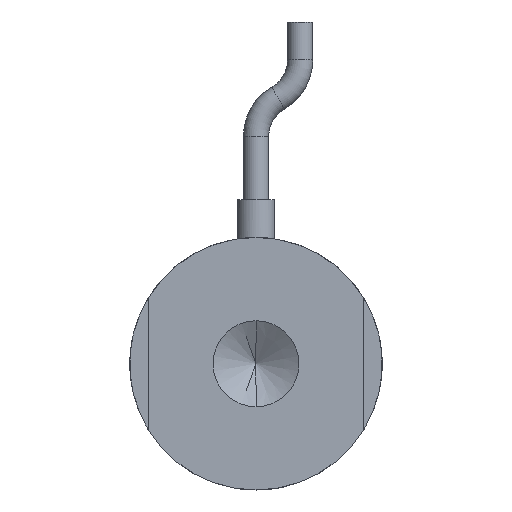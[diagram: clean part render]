
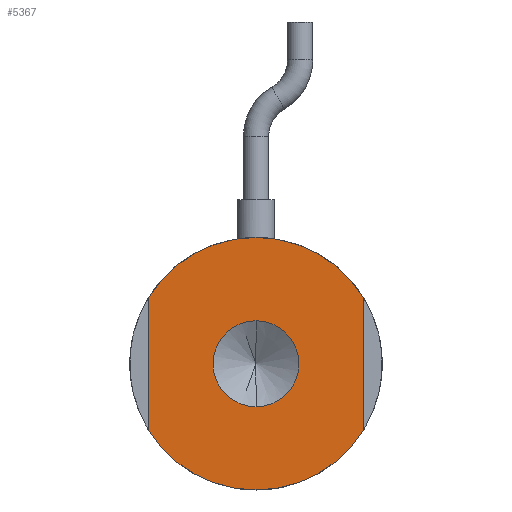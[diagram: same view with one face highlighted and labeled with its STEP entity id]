
A CAD part, front view. The second image highlights one B-rep face of the part: STEP entity #5367.
In plain terms, the highlighted planar face has unit normal (0, -1, 0).
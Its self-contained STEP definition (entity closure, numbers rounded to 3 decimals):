
#10 = AXIS2_PLACEMENT_3D ( 'NONE', #42337, #21681, #704 ) ;
#249 = PLANE ( 'NONE',  #10 ) ;
#704 = DIRECTION ( 'NONE',  ( 0., 0., 1. ) ) ;
#832 = EDGE_LOOP ( 'NONE', ( #18937, #37307 ) ) ;
#1357 = EDGE_CURVE ( 'NONE', #3503, #37301, #32852, .T. ) ;
#1550 = VECTOR ( 'NONE', #27601, 1000. ) ;
#2794 = CARTESIAN_POINT ( 'NONE',  ( 0., 0., 0. ) ) ;
#3503 = VERTEX_POINT ( 'NONE', #32077 ) ;
#3583 = VERTEX_POINT ( 'NONE', #33072 ) ;
#4508 = DIRECTION ( 'NONE',  ( 0., -1., 0. ) ) ;
#5319 = VERTEX_POINT ( 'NONE', #21230 ) ;
#5367 = ADVANCED_FACE ( 'NONE', ( #36600, #21484 ), #249, .F. ) ;
#5627 = CARTESIAN_POINT ( 'NONE',  ( -8.5, 0., -5.268 ) ) ;
#6319 = DIRECTION ( 'NONE',  ( 0., 0., 1. ) ) ;
#6448 = EDGE_CURVE ( 'NONE', #5319, #33537, #25775, .T. ) ;
#6626 = EDGE_LOOP ( 'NONE', ( #10752, #22211, #31426, #15111, #6885, #16231 ) ) ;
#6885 = ORIENTED_EDGE ( 'NONE', *, *, #17805, .F. ) ;
#7560 = DIRECTION ( 'NONE',  ( 0., 0., 1. ) ) ;
#7597 = DIRECTION ( 'NONE',  ( 0., 1., 0. ) ) ;
#7655 = CARTESIAN_POINT ( 'NONE',  ( 0., 0., 0. ) ) ;
#10630 = CARTESIAN_POINT ( 'NONE',  ( 0., 0., 0. ) ) ;
#10752 = ORIENTED_EDGE ( 'NONE', *, *, #15202, .F. ) ;
#13613 = VERTEX_POINT ( 'NONE', #29316 ) ;
#13640 = CARTESIAN_POINT ( 'NONE',  ( -8.5, 0., 0. ) ) ;
#14134 = DIRECTION ( 'NONE',  ( 0., 0., 1. ) ) ;
#14157 = DIRECTION ( 'NONE',  ( 0., -1., 0. ) ) ;
#14253 = EDGE_CURVE ( 'NONE', #33537, #41663, #32140, .T. ) ;
#14427 = DIRECTION ( 'NONE',  ( 0., 0., -1. ) ) ;
#15005 = CIRCLE ( 'NONE', #39968, 3.4 ) ;
#15111 = ORIENTED_EDGE ( 'NONE', *, *, #31008, .F. ) ;
#15202 = EDGE_CURVE ( 'NONE', #41663, #3503, #19086, .T. ) ;
#16008 = EDGE_CURVE ( 'NONE', #13613, #32806, #36912, .T. ) ;
#16231 = ORIENTED_EDGE ( 'NONE', *, *, #1357, .F. ) ;
#17646 = CARTESIAN_POINT ( 'NONE',  ( 8.5, 0., 0. ) ) ;
#17805 = EDGE_CURVE ( 'NONE', #37301, #3583, #29299, .T. ) ;
#18228 = AXIS2_PLACEMENT_3D ( 'NONE', #2794, #27195, #6319 ) ;
#18838 = VECTOR ( 'NONE', #14427, 1000. ) ;
#18937 = ORIENTED_EDGE ( 'NONE', *, *, #16008, .F. ) ;
#19086 = LINE ( 'NONE', #13640, #1550 ) ;
#19853 = CARTESIAN_POINT ( 'NONE',  ( 0., 0., 0. ) ) ;
#21230 = CARTESIAN_POINT ( 'NONE',  ( 8.5, 0., -5.268 ) ) ;
#21484 = FACE_OUTER_BOUND ( 'NONE', #6626, .T. ) ;
#21681 = DIRECTION ( 'NONE',  ( 0., 1., 0. ) ) ;
#22211 = ORIENTED_EDGE ( 'NONE', *, *, #14253, .F. ) ;
#23199 = EDGE_CURVE ( 'NONE', #32806, #13613, #15005, .T. ) ;
#23348 = DIRECTION ( 'NONE',  ( 0., 0., 1. ) ) ;
#25434 = CARTESIAN_POINT ( 'NONE',  ( 0., 0., 0. ) ) ;
#25775 = CIRCLE ( 'NONE', #33166, 10. ) ;
#27195 = DIRECTION ( 'NONE',  ( 0., 1., 0. ) ) ;
#27601 = DIRECTION ( 'NONE',  ( 0., 0., 1. ) ) ;
#28889 = DIRECTION ( 'NONE',  ( 0., 0., -1. ) ) ;
#29299 = CIRCLE ( 'NONE', #18228, 10. ) ;
#29316 = CARTESIAN_POINT ( 'NONE',  ( 0., 0., -3.4 ) ) ;
#31008 = EDGE_CURVE ( 'NONE', #3583, #5319, #37221, .T. ) ;
#31156 = CARTESIAN_POINT ( 'NONE',  ( 0., 0., 3.4 ) ) ;
#31426 = ORIENTED_EDGE ( 'NONE', *, *, #6448, .F. ) ;
#32077 = CARTESIAN_POINT ( 'NONE',  ( -8.5, 0., 5.268 ) ) ;
#32140 = CIRCLE ( 'NONE', #45046, 10. ) ;
#32806 = VERTEX_POINT ( 'NONE', #31156 ) ;
#32852 = CIRCLE ( 'NONE', #34957, 10. ) ;
#33072 = CARTESIAN_POINT ( 'NONE',  ( 8.5, 0., 5.268 ) ) ;
#33166 = AXIS2_PLACEMENT_3D ( 'NONE', #10630, #34888, #14134 ) ;
#33537 = VERTEX_POINT ( 'NONE', #43660 ) ;
#34888 = DIRECTION ( 'NONE',  ( 0., 1., 0. ) ) ;
#34916 = CARTESIAN_POINT ( 'NONE',  ( 0., 0., 0. ) ) ;
#34957 = AXIS2_PLACEMENT_3D ( 'NONE', #7655, #7597, #7560 ) ;
#35599 = AXIS2_PLACEMENT_3D ( 'NONE', #25434, #4508, #28889 ) ;
#35661 = CARTESIAN_POINT ( 'NONE',  ( 0., 0., 10. ) ) ;
#36600 = FACE_BOUND ( 'NONE', #832, .T. ) ;
#36912 = CIRCLE ( 'NONE', #35599, 3.4 ) ;
#37221 = LINE ( 'NONE', #17646, #18838 ) ;
#37301 = VERTEX_POINT ( 'NONE', #35661 ) ;
#37307 = ORIENTED_EDGE ( 'NONE', *, *, #23199, .F. ) ;
#38390 = DIRECTION ( 'NONE',  ( 0., 0., -1. ) ) ;
#39968 = AXIS2_PLACEMENT_3D ( 'NONE', #34916, #14157, #38390 ) ;
#41663 = VERTEX_POINT ( 'NONE', #5627 ) ;
#42337 = CARTESIAN_POINT ( 'NONE',  ( 0., 0., 0. ) ) ;
#43660 = CARTESIAN_POINT ( 'NONE',  ( 0., 0., -10. ) ) ;
#43981 = DIRECTION ( 'NONE',  ( 0., 1., 0. ) ) ;
#45046 = AXIS2_PLACEMENT_3D ( 'NONE', #19853, #43981, #23348 ) ;
